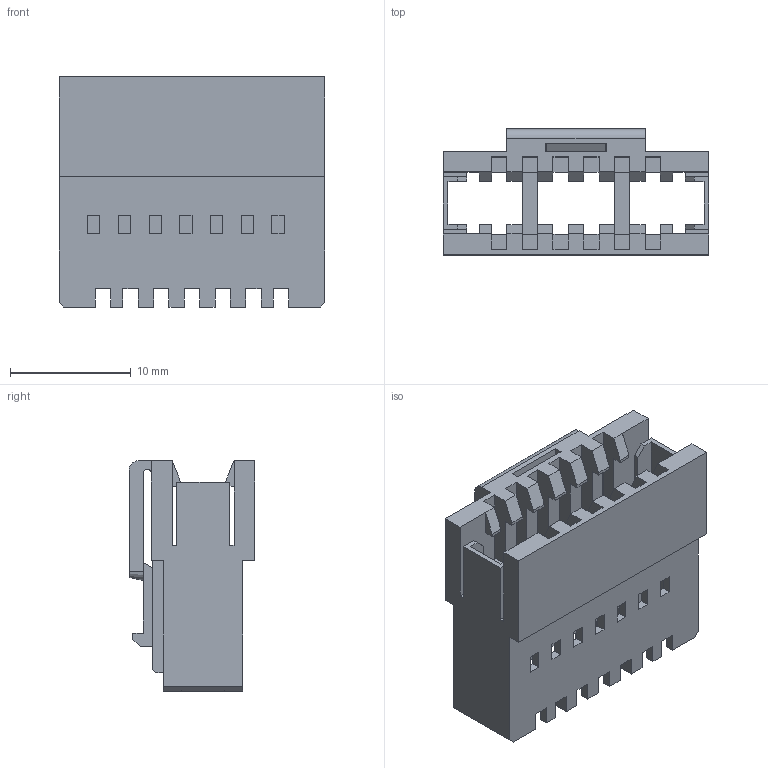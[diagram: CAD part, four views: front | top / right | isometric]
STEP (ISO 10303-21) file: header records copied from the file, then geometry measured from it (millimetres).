
FILE_DESCRIPTION((''),'2;1');
FILE_NAME('015045141','2016-10-05T',('rlalsangi'),(''),'PRO/ENGINEER BY PARAMETRIC TECHNOLOGY CORPORATION, 2012310','PRO/ENGINEER BY PARAMETRIC TECHNOLOGY CORPORATION, 2012310','');
FILE_SCHEMA(('CONFIG_CONTROL_DESIGN'));
Length unit declared in the file: inch
Products named in the file (1): 015045141
Bounding box: 22 x 10.41 x 19.05 mm (x, y, z)
Volume: 1118.8 mm3; surface area: 2988.5 mm2
Topology: 1 solids, 1 shells, 282 faces, 834 edges, 552 vertices
Faces by surface type: plane 275, cylinder 5, bspline 2
Entity records: 9352 total; most frequent: CARTESIAN_POINT 1723, ORIENTED_EDGE 1668, DIRECTION 1410, EDGE_CURVE 834, VECTOR 820, LINE 820, VERTEX_POINT 552, EDGE_LOOP 302
